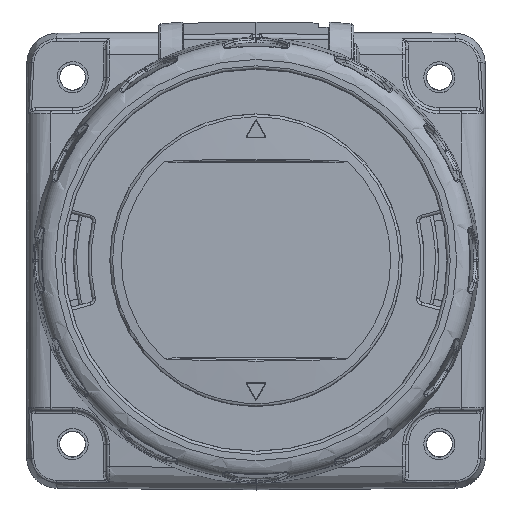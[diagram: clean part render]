
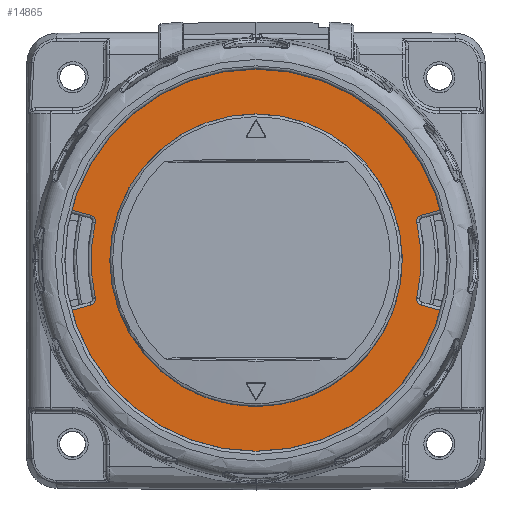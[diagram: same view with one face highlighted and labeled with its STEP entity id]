
A CAD part, top view. The second image highlights one B-rep face of the part: STEP entity #14865.
In plain terms, the highlighted planar face has unit normal (0, 0, 1).
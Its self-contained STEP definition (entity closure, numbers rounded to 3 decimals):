
#11451=FACE_BOUND('',#23961,.T.);
#11452=FACE_BOUND('',#23962,.T.);
#14865=ADVANCED_FACE('',(#11451,#11452),#16572,.T.);
#16572=PLANE('',#74540);
#23961=EDGE_LOOP('',(#47816));
#23962=EDGE_LOOP('',(#47817,#47818,#47819,#47820,#47821,#47822,#47823,#47824,
#47825,#47826,#47827,#47828));
#27430=LINE('',#154880,#30956);
#27431=LINE('',#154884,#30957);
#27432=LINE('',#154892,#30958);
#27433=LINE('',#154896,#30959);
#30956=VECTOR('',#88625,1.);
#30957=VECTOR('',#88628,1.);
#30958=VECTOR('',#88635,1.);
#30959=VECTOR('',#88638,1.);
#47816=ORIENTED_EDGE('',*,*,#65261,.T.);
#47817=ORIENTED_EDGE('',*,*,#65262,.F.);
#47818=ORIENTED_EDGE('',*,*,#65263,.T.);
#47819=ORIENTED_EDGE('',*,*,#65264,.T.);
#47820=ORIENTED_EDGE('',*,*,#65265,.T.);
#47821=ORIENTED_EDGE('',*,*,#65266,.F.);
#47822=ORIENTED_EDGE('',*,*,#65267,.T.);
#47823=ORIENTED_EDGE('',*,*,#65268,.F.);
#47824=ORIENTED_EDGE('',*,*,#65269,.T.);
#47825=ORIENTED_EDGE('',*,*,#65270,.T.);
#47826=ORIENTED_EDGE('',*,*,#65271,.T.);
#47827=ORIENTED_EDGE('',*,*,#65272,.F.);
#47828=ORIENTED_EDGE('',*,*,#65273,.T.);
#56141=VERTEX_POINT('',#154876);
#56142=VERTEX_POINT('',#154878);
#56143=VERTEX_POINT('',#154879);
#56144=VERTEX_POINT('',#154881);
#56145=VERTEX_POINT('',#154883);
#56146=VERTEX_POINT('',#154885);
#56147=VERTEX_POINT('',#154887);
#56148=VERTEX_POINT('',#154889);
#56149=VERTEX_POINT('',#154891);
#56150=VERTEX_POINT('',#154893);
#56151=VERTEX_POINT('',#154895);
#56152=VERTEX_POINT('',#154897);
#56153=VERTEX_POINT('',#154899);
#65261=EDGE_CURVE('',#56141,#56141,#69007,.T.);
#65262=EDGE_CURVE('',#56142,#56143,#69008,.T.);
#65263=EDGE_CURVE('',#56142,#56144,#27430,.T.);
#65264=EDGE_CURVE('',#56144,#56145,#69009,.T.);
#65265=EDGE_CURVE('',#56145,#56146,#27431,.T.);
#65266=EDGE_CURVE('',#56147,#56146,#69010,.T.);
#65267=EDGE_CURVE('',#56147,#56148,#69011,.T.);
#65268=EDGE_CURVE('',#56149,#56148,#69012,.T.);
#65269=EDGE_CURVE('',#56149,#56150,#27432,.T.);
#65270=EDGE_CURVE('',#56150,#56151,#69013,.T.);
#65271=EDGE_CURVE('',#56151,#56152,#27433,.T.);
#65272=EDGE_CURVE('',#56153,#56152,#69014,.T.);
#65273=EDGE_CURVE('',#56153,#56143,#69015,.T.);
#69007=CIRCLE('',#74531,22.95);
#69008=CIRCLE('',#74532,1.);
#69009=CIRCLE('',#74533,32.375);
#69010=CIRCLE('',#74534,1.);
#69011=CIRCLE('',#74535,27.);
#69012=CIRCLE('',#74536,1.);
#69013=CIRCLE('',#74537,32.375);
#69014=CIRCLE('',#74538,1.);
#69015=CIRCLE('',#74539,27.);
#74531=AXIS2_PLACEMENT_3D('',#154875,#88621,#88622);
#74532=AXIS2_PLACEMENT_3D('',#154877,#88623,#88624);
#74533=AXIS2_PLACEMENT_3D('',#154882,#88626,#88627);
#74534=AXIS2_PLACEMENT_3D('',#154886,#88629,#88630);
#74535=AXIS2_PLACEMENT_3D('',#154888,#88631,#88632);
#74536=AXIS2_PLACEMENT_3D('',#154890,#88633,#88634);
#74537=AXIS2_PLACEMENT_3D('',#154894,#88636,#88637);
#74538=AXIS2_PLACEMENT_3D('',#154898,#88639,#88640);
#74539=AXIS2_PLACEMENT_3D('',#154900,#88641,#88642);
#74540=AXIS2_PLACEMENT_3D('',#154901,#88643,#88644);
#88621=DIRECTION('',(0.,0.,-1.));
#88622=DIRECTION('',(1.,0.,0.));
#88623=DIRECTION('',(0.,0.,1.));
#88624=DIRECTION('',(1.,0.,0.));
#88625=DIRECTION('',(-0.966,-0.259,0.));
#88626=DIRECTION('',(0.,0.,1.));
#88627=DIRECTION('',(1.,0.,0.));
#88628=DIRECTION('',(-0.966,0.259,0.));
#88629=DIRECTION('',(0.,0.,1.));
#88630=DIRECTION('',(1.,0.,0.));
#88631=DIRECTION('',(0.,0.,1.));
#88632=DIRECTION('',(1.,0.,0.));
#88633=DIRECTION('',(0.,0.,1.));
#88634=DIRECTION('',(1.,0.,0.));
#88635=DIRECTION('',(0.966,0.259,0.));
#88636=DIRECTION('',(0.,0.,1.));
#88637=DIRECTION('',(1.,0.,0.));
#88638=DIRECTION('',(0.966,-0.259,0.));
#88639=DIRECTION('',(0.,0.,1.));
#88640=DIRECTION('',(1.,0.,0.));
#88641=DIRECTION('',(0.,0.,1.));
#88642=DIRECTION('',(1.,0.,0.));
#88643=DIRECTION('',(0.,0.,1.));
#88644=DIRECTION('',(-1.,0.,0.));
#154875=CARTESIAN_POINT('',(0.,0.,
8.9));
#154876=CARTESIAN_POINT('',(22.95,0.,8.9));
#154877=CARTESIAN_POINT('',(-27.262,-6.385,8.9));
#154878=CARTESIAN_POINT('',(-27.003,-7.351,8.9));
#154879=CARTESIAN_POINT('',(-26.289,-6.157,8.9));
#154880=CARTESIAN_POINT('',(-31.241,-8.487,8.9));
#154881=CARTESIAN_POINT('',(-31.243,-8.487,8.9));
#154882=CARTESIAN_POINT('',(0.,0.,
8.9));
#154883=CARTESIAN_POINT('',(31.243,-8.487,8.9));
#154884=CARTESIAN_POINT('',(26.531,-7.225,8.9));
#154885=CARTESIAN_POINT('',(27.003,-7.351,8.9));
#154886=CARTESIAN_POINT('',(27.262,-6.385,8.9));
#154887=CARTESIAN_POINT('',(26.289,-6.157,8.9));
#154888=CARTESIAN_POINT('',(0.,0.,
8.9));
#154889=CARTESIAN_POINT('',(26.289,6.157,8.9));
#154890=CARTESIAN_POINT('',(27.262,6.385,8.9));
#154891=CARTESIAN_POINT('',(27.003,7.351,8.9));
#154892=CARTESIAN_POINT('',(31.241,8.487,8.9));
#154893=CARTESIAN_POINT('',(31.243,8.487,8.9));
#154894=CARTESIAN_POINT('',(0.,0.,
8.9));
#154895=CARTESIAN_POINT('',(-31.243,8.487,8.9));
#154896=CARTESIAN_POINT('',(-26.531,7.225,8.9));
#154897=CARTESIAN_POINT('',(-27.003,7.351,8.9));
#154898=CARTESIAN_POINT('',(-27.262,6.385,8.9));
#154899=CARTESIAN_POINT('',(-26.289,6.157,8.9));
#154900=CARTESIAN_POINT('',(0.,0.,
8.9));
#154901=CARTESIAN_POINT('',(-40.05,-40.05,8.9));
